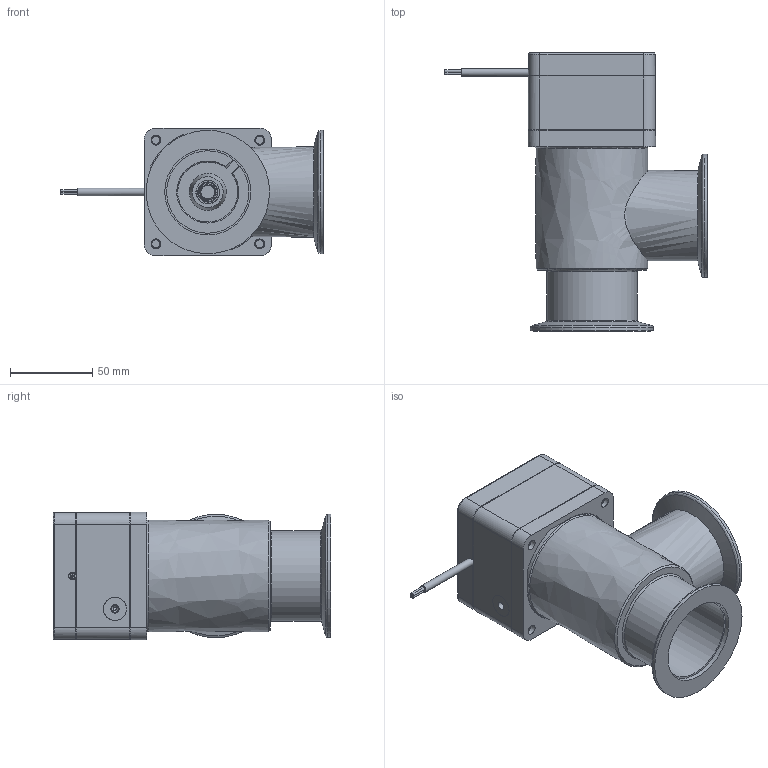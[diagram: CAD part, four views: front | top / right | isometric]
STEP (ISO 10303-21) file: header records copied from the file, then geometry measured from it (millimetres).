
FILE_DESCRIPTION((''),'2;1');
FILE_NAME('C:\TEMP\IDEAS\325648.stp','2006-09-19T16:25:13',('User'),( 'SDRC'),'I-DEAS Master Series 9','UNIX','Yes');
FILE_SCHEMA(('CONFIG_CONTROL_DESIGN'));
Length unit declared in the file: millimetre
Assembly tree (17 placements, depth 0):
Bounding box: 159.2 x 168.8 x 77.4 mm (x, y, z)
Volume: 155001.3 mm3; surface area: 157942.2 mm2
Topology: 22 solids, 23 shells, 666 faces, 1664 edges, 1134 vertices
Faces by surface type: bspline 666
Entity records: 20447 total; most frequent: CARTESIAN_POINT 10400, ORIENTED_EDGE 2732, EDGE_CURVE 1366, VERTEX_POINT 877, EDGE_LOOP 654, FACE_OUTER_BOUND 556, ADVANCED_FACE 556, B_SPLINE_CURVE_WITH_KNOTS 509
